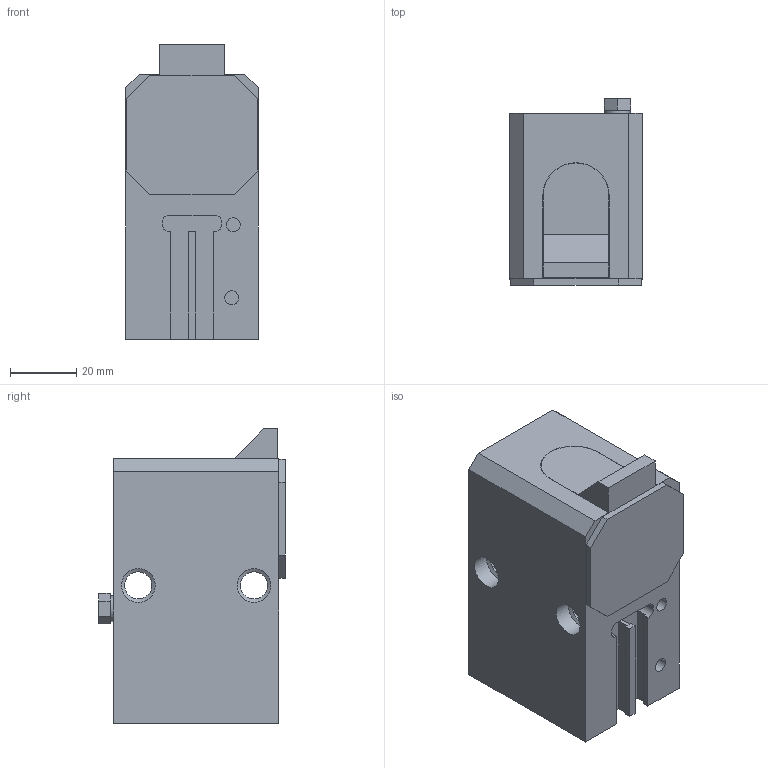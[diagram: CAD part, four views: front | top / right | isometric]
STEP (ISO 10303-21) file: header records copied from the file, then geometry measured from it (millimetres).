
FILE_DESCRIPTION(/* description */ ('Stopper SU-400-EW-09-E - Ersatzobjekt'),/* implementation_level */ '2;1');
FILE_NAME(/* name */ 'C:\Marketing\01_Versamove-SPU_STEP-Dateien-Homepage\Versamove plus\Stopper\K503011401_Stopper SU-400-EW-09.stp',/* time_stamp */ '2017-02-01T13:36:55+01:00',/* author */ ('herbert.engels'),/* organization */ (''),/* preprocessor_version */ 'ST-DEVELOPER v15.6',/* originating_system */ 'Autodesk Inventor 2015',/* authorisation */ '');
FILE_SCHEMA (('CONFIG_CONTROL_DESIGN'));
Length unit declared in the file: millimetre
Products named in the file (1): T-ENG556641
Bounding box: 40 x 56.5 x 89 mm (x, y, z)
Volume: 149862.5 mm3; surface area: 29665.7 mm2
Topology: 1 solids, 3 shells, 109 faces, 267 edges, 175 vertices
Faces by surface type: plane 72, cylinder 32, cone 5
Full cylindrical faces by diameter (mm): 2.5 x2, 4.2 x4, 5 x1, 5.2 x1, 7.8 x1, 8.2 x2, 10.2 x4, 19.95 x1, 24.8 x1, 35.92 x1, 36.05 x2, 38.05 x1
Entity records: 3198 total; most frequent: DIRECTION 524, CARTESIAN_POINT 514, ORIENTED_EDGE 470, EDGE_CURVE 235, AXIS2_PLACEMENT_3D 179, VERTEX_POINT 169, LINE 166, VECTOR 166
